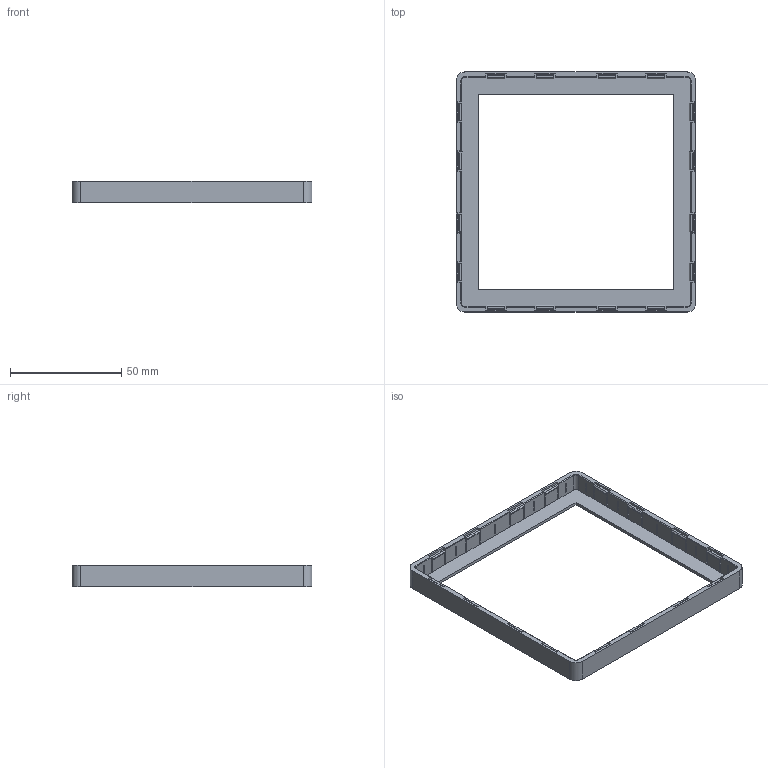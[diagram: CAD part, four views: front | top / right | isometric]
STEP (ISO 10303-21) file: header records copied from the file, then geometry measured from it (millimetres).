
FILE_DESCRIPTION(('FreeCAD Model'),'2;1');
FILE_NAME('Open CASCADE Shape Model','2026-10-10T20:57:52',(''),(''), 'Open CASCADE STEP processor 7.8','FreeCAD','Unknown');
FILE_SCHEMA(('AUTOMOTIVE_DESIGN { 1 0 10303 214 1 1 1 1 }'));
Length unit declared in the file: millimetre
Products named in the file (1): Entropy_Box_100_V3_Lid
Bounding box: 108 x 108 x 9.8 mm (x, y, z)
Volume: 13127.3 mm3; surface area: 18772.8 mm2
Topology: 1 solids, 1 shells, 463 faces, 1272 edges, 832 vertices
Faces by surface type: bspline 463
Entity records: 31476 total; most frequent: CARTESIAN_POINT 14865, B_SPLINE_CURVE_WITH_KNOTS 3716, ORIENTED_EDGE 2544, PCURVE 2544, DEFINITIONAL_REPRESENTATION 2544, EDGE_CURVE 1272, SURFACE_CURVE 1272, VERTEX_POINT 832
